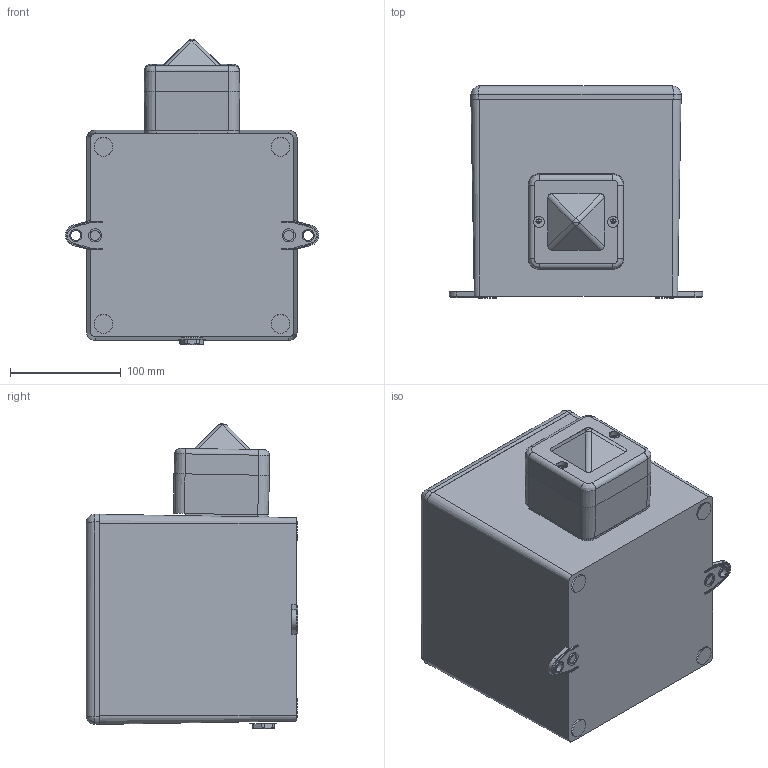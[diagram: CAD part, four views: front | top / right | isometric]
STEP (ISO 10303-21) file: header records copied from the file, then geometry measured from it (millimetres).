
FILE_DESCRIPTION((''),'2;1');
FILE_NAME('10000808729_SW0001','2020-06-09T11:28:27',('WJPreisc'),('Rockwell Automation'),'CREO PARAMETRIC BY PTC INC, 2017380','CREO PARAMETRIC BY PTC INC, 2017380','');
FILE_SCHEMA(('CONFIG_CONTROL_DESIGN'));
Length unit declared in the file: millimetre
Products named in the file (1): 10000808729_SW0001
Bounding box: 228.96 x 191.5 x 276.07 mm (x, y, z)
Surface area: 290631.7 mm2 (no closed solid volume)
Topology: 0 solids, 25 shells, 209 faces, 778 edges, 577 vertices
Faces by surface type: cylinder 80, plane 67, bspline 22, cone 14, torus 12, revolution 10, sphere 4
Entity records: 9864 total; most frequent: CARTESIAN_POINT 3689, DIRECTION 1194, ORIENTED_EDGE 1152, EDGE_CURVE 772, VERTEX_POINT 577, AXIS2_PLACEMENT_3D 451, VECTOR 282, LINE 282
